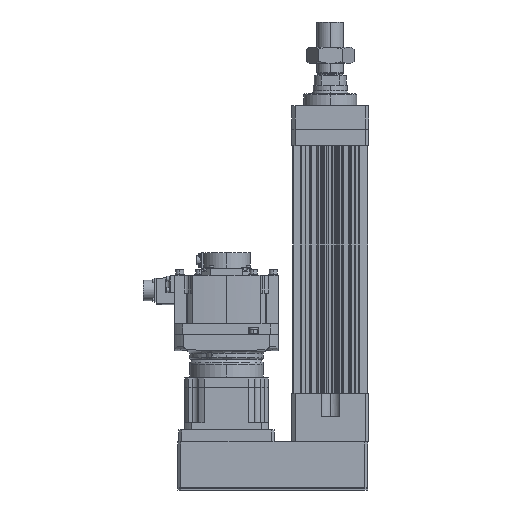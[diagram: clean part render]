
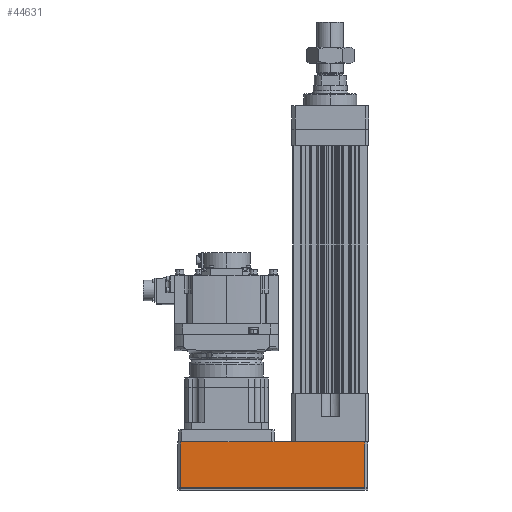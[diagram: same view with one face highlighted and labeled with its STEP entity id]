
A CAD part, left-side view. The second image highlights one B-rep face of the part: STEP entity #44631.
In plain terms, the highlighted planar face has unit normal (-1, 0, 0).
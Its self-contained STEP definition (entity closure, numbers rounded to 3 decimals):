
#653 = CARTESIAN_POINT ( 'NONE',  ( -63.5, 254., -161. ) ) ;
#1039 = DIRECTION ( 'NONE',  ( 0., 0., 1. ) ) ;
#2626 = ORIENTED_EDGE ( 'NONE', *, *, #20344, .T. ) ;
#5363 = VECTOR ( 'NONE', #40910, 1000. ) ;
#8472 = CARTESIAN_POINT ( 'NONE',  ( -63.5, -59., -160.5 ) ) ;
#9377 = VECTOR ( 'NONE', #47053, 1000. ) ;
#9483 = CARTESIAN_POINT ( 'NONE',  ( -63.5, -59., -82.5 ) ) ;
#9494 = VERTEX_POINT ( 'NONE', #8472 ) ;
#13148 = EDGE_CURVE ( 'NONE', #24220, #23178, #44377, .T. ) ;
#19436 = CARTESIAN_POINT ( 'NONE',  ( -63.5, -59., -161. ) ) ;
#20344 = EDGE_CURVE ( 'NONE', #9494, #32080, #49543, .T. ) ;
#21021 = FACE_OUTER_BOUND ( 'NONE', #45751, .T. ) ;
#21990 = LINE ( 'NONE', #51115, #42157 ) ;
#23178 = VERTEX_POINT ( 'NONE', #31721 ) ;
#23301 = PLANE ( 'NONE',  #49435 ) ;
#24220 = VERTEX_POINT ( 'NONE', #43856 ) ;
#26992 = CARTESIAN_POINT ( 'NONE',  ( -63.5, -59., -160.5 ) ) ;
#27062 = ORIENTED_EDGE ( 'NONE', *, *, #13148, .F. ) ;
#27610 = LINE ( 'NONE', #26992, #9377 ) ;
#31400 = DIRECTION ( 'NONE',  ( 0., 0., -1. ) ) ;
#31721 = CARTESIAN_POINT ( 'NONE',  ( -63.5, 254., -82.5 ) ) ;
#32080 = VERTEX_POINT ( 'NONE', #9483 ) ;
#37593 = CARTESIAN_POINT ( 'NONE',  ( -63.5, -59., -161. ) ) ;
#38396 = ORIENTED_EDGE ( 'NONE', *, *, #47701, .T. ) ;
#38899 = VECTOR ( 'NONE', #1039, 1000. ) ;
#40475 = ORIENTED_EDGE ( 'NONE', *, *, #49586, .T. ) ;
#40910 = DIRECTION ( 'NONE',  ( 0., 0., 1. ) ) ;
#42157 = VECTOR ( 'NONE', #50588, 1000. ) ;
#43199 = DIRECTION ( 'NONE',  ( 1., 0., 0. ) ) ;
#43856 = CARTESIAN_POINT ( 'NONE',  ( -63.5, 254., -160.5 ) ) ;
#44377 = LINE ( 'NONE', #653, #5363 ) ;
#44631 = ADVANCED_FACE ( 'NONE', ( #21021 ), #23301, .F. ) ;
#45751 = EDGE_LOOP ( 'NONE', ( #27062, #40475, #2626, #38396 ) ) ;
#47053 = DIRECTION ( 'NONE',  ( 0., -1., 0. ) ) ;
#47701 = EDGE_CURVE ( 'NONE', #32080, #23178, #21990, .T. ) ;
#49435 = AXIS2_PLACEMENT_3D ( 'NONE', #19436, #43199, #31400 ) ;
#49543 = LINE ( 'NONE', #37593, #38899 ) ;
#49586 = EDGE_CURVE ( 'NONE', #24220, #9494, #27610, .T. ) ;
#50588 = DIRECTION ( 'NONE',  ( 0., 1., 0. ) ) ;
#51115 = CARTESIAN_POINT ( 'NONE',  ( -63.5, 254., -82.5 ) ) ;
